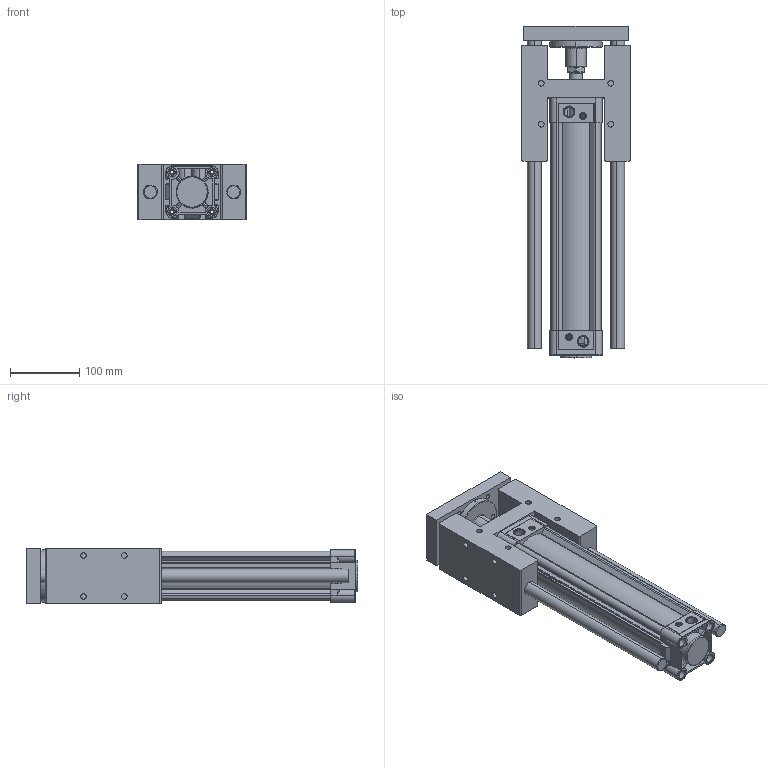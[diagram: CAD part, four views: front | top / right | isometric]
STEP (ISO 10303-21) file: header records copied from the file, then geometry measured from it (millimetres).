
FILE_DESCRIPTION (( 'STEP AP203' ), '1' );
FILE_NAME ('KDNT63X250H-YATAK.STEP', '2016-05-18T13:04:11', ( 'user' ), ( '' ), 'SwSTEP 2.0', 'SolidWorks 2013', '' );
FILE_SCHEMA (( 'CONFIG_CONTROL_DESIGN' ));
Length unit declared in the file: millimetre
Products named in the file (11): SOMUN 63; DNC-H-YATAK M尳 63X250; KDNT63X250H-YATAK; DNC-H-YATAK TABLA 63; DNC-H-YATAK MÝL YATAÐI 63; ARKA KAPAK  63; KDNT 63X250 BORU; ORTA PÝSTON 63; 烰 KAPAK  63; Piston Mili 63x250; DNC-H-YATAK 63
Assembly tree (11 placements, depth 2):
  KDNT63X250H-YATAK
    DNC-H-YATAK 63
    DNC-H-YATAK M尳 63X250  x2
    DNC-H-YATAK TABLA 63
    DNC-H-YATAK MÝL YATAÐI 63
    ARKA KAPAK  63
    KDNT 63X250 BORU
    ORTA PÝSTON 63
    烰 KAPAK  63
    Piston Mili 63x250
    SOMUN 63
Bounding box: 157 x 478.7 x 80.5 mm (x, y, z)
Volume: 2295624.7 mm3; surface area: 591372.4 mm2
Topology: 11 solids, 11 shells, 1031 faces, 2596 edges, 1664 vertices
Faces by surface type: cylinder 516, plane 333, cone 94, bspline 76, torus 12
Entity records: 40560 total; most frequent: CARTESIAN_POINT 15027, ORIENTED_EDGE 5156, DIRECTION 5020, EDGE_CURVE 2578, AXIS2_PLACEMENT_3D 1957, VERTEX_POINT 1656, EDGE_LOOP 1202, VECTOR 1106
